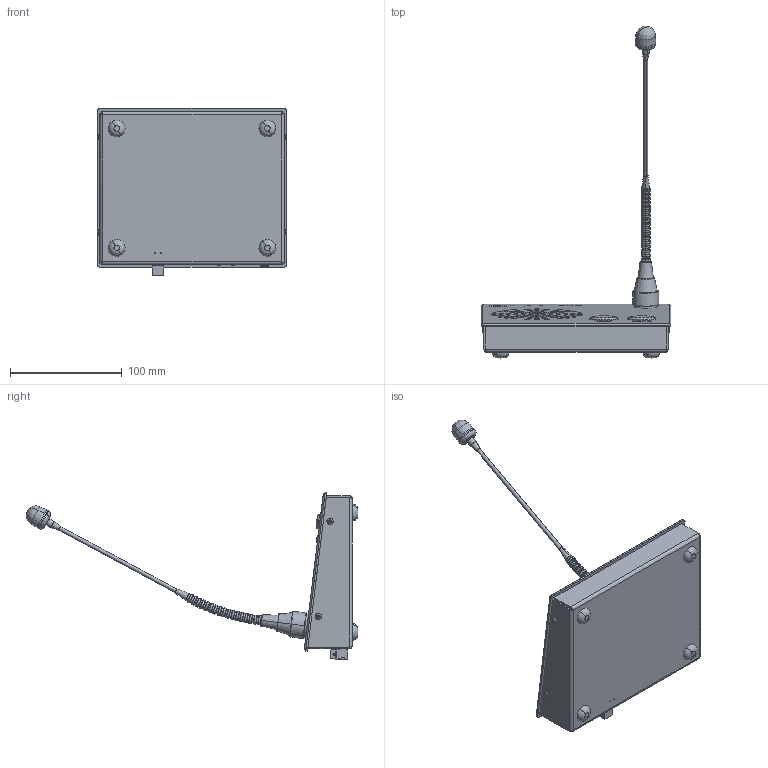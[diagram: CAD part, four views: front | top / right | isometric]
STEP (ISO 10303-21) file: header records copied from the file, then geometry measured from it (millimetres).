
FILE_DESCRIPTION (( 'STEP AP214' ), '1' );
FILE_NAME ('Ìèêðîôîííàÿ ñòàíöèÿ RMK-10.STEP', '2024-09-27T19:51:52', ( '' ), ( '' ), 'SwSTEP 2.0', 'SolidWorks 2024', '' );
FILE_SCHEMA (( 'AUTOMOTIVE_DESIGN' ));
Length unit declared in the file: millimetre
Products named in the file (20): Микрофонная станция RMK-10; Втулка; Мембрана_85; Корпус_RMK-20; Кнопка 2.STEP; Микрофонная сборка; 2EDGK-5.0-02P-14-1000A(H)-T0; Светофильтр_Зеленый; socket button head screw_iso_ISO 7380 - M3 x 6 - 6N; Демпфер; Толкатель 2; CUI-PJ-035CH.STEP-1; Светофильтр_Красный; Панель лицевая; KLS1-TSJ3.5-014.STEP-1; Microphone JH-042; Основа микрофона; 2EDGR-5.0-03P-14_2.STEP-3; RJ45 v1 v2.step; Гибкая трубка
Assembly tree (27 placements, depth 3):
  Микрофонная станция RMK-10
    Корпус_RMK-20
    2EDGK-5.0-02P-14-1000A(H)-T0
    2EDGR-5.0-03P-14_2.STEP-3
    KLS1-TSJ3.5-014.STEP-1  x2
    RJ45 v1 v2.step
    CUI-PJ-035CH.STEP-1
    Кнопка 2.STEP
    Демпфер  x4
    Микрофонная сборка
      Гибкая трубка
      Microphone JH-042
      Основа микрофона
      Втулка
    Светофильтр_Зеленый
    socket button head screw_iso_ISO 7380 - M3 x 6 - 6N  x4
    Панель лицевая
    Толкатель 2  x2
    Светофильтр_Красный
    Мембрана_85
Bounding box: 170 x 297.39 x 150.1 mm (x, y, z)
Volume: 146533.7 mm3; surface area: 164903.1 mm2
Topology: 37 solids, 44 shells, 2073 faces, 6090 edges, 4329 vertices
Faces by surface type: plane 1254, cylinder 516, cone 132, torus 122, bspline 31, sphere 18
Entity records: 83744 total; most frequent: CARTESIAN_POINT 22356, ORIENTED_EDGE 11498, DIRECTION 10046, EDGE_CURVE 5752, VERTEX_POINT 4126, VECTOR 3748, LINE 3748, AXIS2_PLACEMENT_3D 3149
